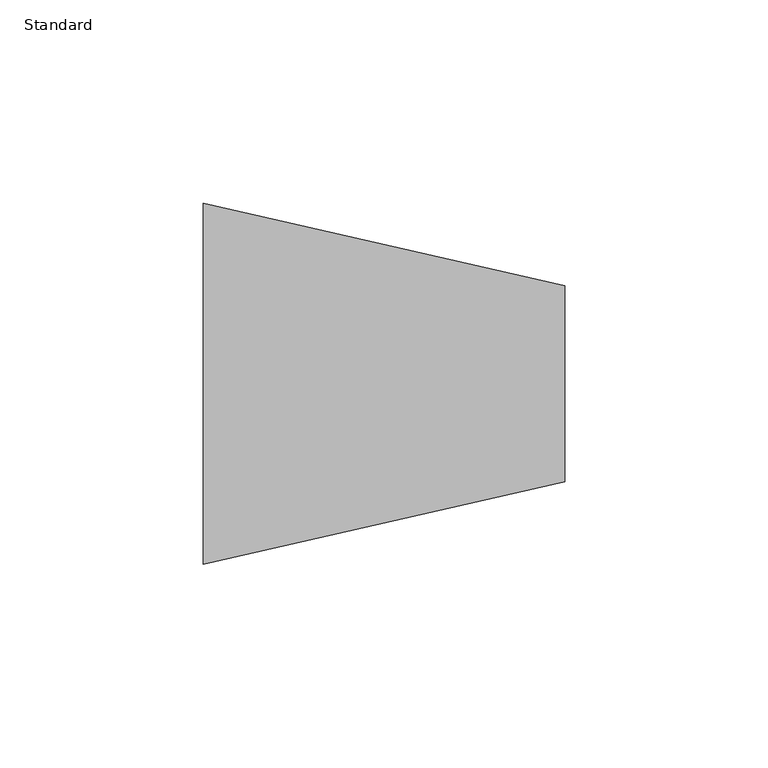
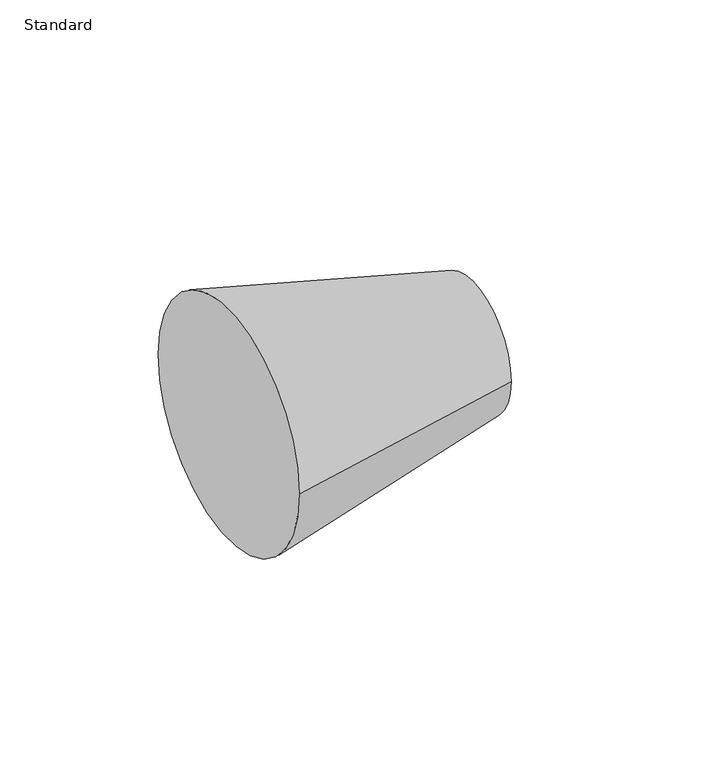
"""IFC4 building model written with IfcOpenShell, lengths in millimetres: pipe fitting geometry, Transformation - Générique : Standard."""

import ifcopenshell
import ifcopenshell.guid

model = None  # the IFC model being written
_history = None  # IfcOwnerHistory: only IFC2X3 demands one
_inside = {}  # id of a spatial element -> (the spatial element, [elements in it])
_under = {}  # id of a project, library or spatial element -> (it, [spatial elements below it])
_declared = {}  # id of a project -> (the project, [libraries it declares])
_typed = {}  # id of a type object -> (the type object, [elements of that type])
_made_of = {}  # id of a material, layer set ... -> (it, [elements and type objects made of it])


def new_model(schema):
    """Start an empty IFC model of exactly this schema.

    Asked for "IFC4X3", IfcOpenShell would pick the latest addendum, in which some entities
    have other attributes; the version numbers below select the first issue.
    IFC2X3 requires an IfcOwnerHistory on every rooted entity: one is made here for all.
    """
    global model, _history
    if schema == "IFC4X3":
        model = ifcopenshell.file(schema_version=(4, 3, 0, 0))
    else:
        model = ifcopenshell.file(schema=schema)
    _inside.clear()
    _under.clear()
    _declared.clear()
    _typed.clear()
    _made_of.clear()
    _history = None
    if model.schema == "IFC2X3":
        org = make("IfcOrganization", Name="unknown")
        user = make(
            "IfcPersonAndOrganization",
            ThePerson=make("IfcPerson", FamilyName="unknown"),
            TheOrganization=org,
        )
        app = make(
            "IfcApplication",
            ApplicationDeveloper=org,
            Version="unknown",
            ApplicationFullName="unknown",
            ApplicationIdentifier="unknown",
        )
        _history = make(
            "IfcOwnerHistory",
            OwningUser=user,
            OwningApplication=app,
            ChangeAction="ADDED",
            CreationDate=0,
        )
    return model


def make(cls, **values):
    """One entity of the class cls with the attributes given. An attribute that is None is left unset."""
    return model.create_entity(
        cls, **{name: value for name, value in values.items() if value is not None}
    )


def rooted(cls, **values):
    """An entity with a GlobalId (a new one), such as an element, a storey or a relation."""
    return make(cls, GlobalId=ifcopenshell.guid.new(), OwnerHistory=_history, **values)


def si_unit(unit_type, name, prefix=None):
    """IfcSIUnit, for example si_unit("LENGTHUNIT", "METRE", prefix="MILLI")."""
    return make("IfcSIUnit", UnitType=unit_type, Prefix=prefix, Name=name)


def assignment(units):
    """IfcUnitAssignment: the units of a project."""
    return None if units is None else make("IfcUnitAssignment", Units=units)


def point(xyz):
    """IfcCartesianPoint."""
    return None if xyz is None else make("IfcCartesianPoint", Coordinates=xyz)


def direction(xyz):
    """IfcDirection."""
    return None if xyz is None else make("IfcDirection", DirectionRatios=xyz)


def frame(location, z_axis=None, x_axis=None):
    """IfcAxis2Placement3D, a coordinate frame: its origin and axes. An axis left out is left unset."""
    return make(
        "IfcAxis2Placement3D",
        Location=point(location),
        Axis=direction(z_axis),
        RefDirection=direction(x_axis),
    )


def origin():
    """The frame at (0, 0, 0) with its axes left unset."""
    return frame((0.0, 0.0, 0.0))


def place(relative_to, where):
    """IfcLocalPlacement: puts the frame where relative to a parent placement (None: the world)."""
    return make(
        "IfcLocalPlacement", PlacementRelTo=relative_to, RelativePlacement=where
    )


def context(
    kind, dimensions, precision=None, world=None, true_north=None, identifier=None
):
    """IfcGeometricRepresentationContext, for example the 3D "Model" context."""
    return make(
        "IfcGeometricRepresentationContext",
        ContextIdentifier=identifier,
        ContextType=kind,
        CoordinateSpaceDimension=dimensions,
        Precision=precision,
        WorldCoordinateSystem=world,
        TrueNorth=true_north,
    )


def project(units=None, contexts=None):
    """IfcProject with its units and contexts."""
    return rooted(
        "IfcProject",
        Name="project",
        RepresentationContexts=contexts,
        UnitsInContext=assignment(units),
    )


def spatial(cls, under=None, at=None, **own):
    """A site, building, storey or space (cls), placed at a placement, below another one or the project."""
    s = rooted(cls, ObjectPlacement=at, **own)
    if under is not None:
        _under.setdefault(under.id(), (under, []))[1].append(s)
    return s


def polyline(points):
    """IfcPolyline through the points."""
    return make("IfcPolyline", Points=[point(p) for p in points])


def circle_curve(where, radius):
    """IfcCircle in the frame where."""
    return make("IfcCircle", Position=where, Radius=radius)


def shape(context_of_items, identifier, shape_type, items):
    """IfcShapeRepresentation: the items that make up one representation, for example the "Body"."""
    return make(
        "IfcShapeRepresentation",
        ContextOfItems=context_of_items,
        RepresentationIdentifier=identifier,
        RepresentationType=shape_type,
        Items=items,
    )


def source(mapping_origin, context_of_items, identifier, shape_type, items):
    """IfcRepresentationMap: a shape defined once, which mapped items show again and again."""
    return make(
        "IfcRepresentationMap",
        MappingOrigin=mapping_origin,
        MappedRepresentation=shape(context_of_items, identifier, shape_type, items),
    )


def transform(
    local_origin,
    x_axis=None,
    y_axis=None,
    z_axis=None,
    scale=None,
    scale2=None,
    scale3=None,
    uniform=True,
):
    """IfcCartesianTransformationOperator3D, or its non-uniform kind. x_axis, y_axis, z_axis: its Axis1, 2, 3."""
    if uniform:
        return make(
            "IfcCartesianTransformationOperator3D",
            Axis1=direction(x_axis),
            Axis2=direction(y_axis),
            LocalOrigin=point(local_origin),
            Scale=scale,
            Axis3=direction(z_axis),
        )
    return make(
        "IfcCartesianTransformationOperator3DnonUniform",
        Axis1=direction(x_axis),
        Axis2=direction(y_axis),
        LocalOrigin=point(local_origin),
        Scale=scale,
        Axis3=direction(z_axis),
        Scale2=scale2,
        Scale3=scale3,
    )


def mapped(mapping_source, mapping_target):
    """IfcMappedItem: shows the shape of a source again, moved by a transform."""
    return make(
        "IfcMappedItem", MappingSource=mapping_source, MappingTarget=mapping_target
    )


def made_of(thing, what):
    """Note that an element or type object is made of a material, layer set ...; save() writes the relation."""
    if what is not None:
        _made_of.setdefault(what.id(), (what, []))[1].append(thing)
    return thing


def element(
    cls,
    number,
    at=None,
    inside=None,
    cuts=None,
    type_object=None,
    material=None,
    context=None,
    identifier="Body",
    shape_type=None,
    held_by="IfcProductDefinitionShape",
    body=None,
    shapes=None,
    **own,
):
    """One element of the class cls, such as IfcWall. Its Tag is "e" and its number.

    at: its placement. inside: the storey or other place that contains it. cuts: it is an
    opening in that element (IfcRelVoidsElement). A single representation is given by context,
    identifier, shape_type and body (its items); several are given by shapes. held_by: the class
    of the entity that holds the representations. save() writes the other relations.
    """
    e = rooted(cls, Tag="e%d" % number, ObjectPlacement=at, **own)
    if body is not None:
        shapes = [shape(context, identifier, shape_type, body)]
    if shapes is not None:
        e.Representation = make(held_by, Representations=shapes)
    if inside is not None:
        _inside.setdefault(inside.id(), (inside, []))[1].append(e)
    if cuts is not None:
        rooted(
            "IfcRelVoidsElement", RelatingBuildingElement=cuts, RelatedOpeningElement=e
        )
    if type_object is not None:
        _typed.setdefault(type_object.id(), (type_object, []))[1].append(e)
    return made_of(e, material)


def aggregate(whole, parts):
    """IfcRelAggregates: a whole, such as a stair, and the parts it consists of."""
    return rooted("IfcRelAggregates", RelatingObject=whole, RelatedObjects=parts)


def save(model, path):
    """Write the relations noted so far, then the file.

    IfcRelAggregates (storeys below a building ...), IfcRelContainedInSpatialStructure (elements
    in a storey), IfcRelDefinesByType, IfcRelAssociatesMaterial and IfcRelDeclares: one each for
    every whole, place, type object, material and project.
    """
    for whole, parts in _under.values():
        aggregate(whole, parts)
    for where, things in _inside.values():
        rooted(
            "IfcRelContainedInSpatialStructure",
            RelatedElements=things,
            RelatingStructure=where,
        )
    for kind, things in _typed.values():
        rooted("IfcRelDefinesByType", RelatedObjects=things, RelatingType=kind)
    for what, things in _made_of.values():
        rooted("IfcRelAssociatesMaterial", RelatedObjects=things, RelatingMaterial=what)
    for by, libraries in _declared.values():
        rooted("IfcRelDeclares", RelatingContext=by, RelatedDefinitions=libraries)
    model.write(path)


def plane_surface(at):
    """IfcPlane: the flat surface through the origin of the frame at, square to its z axis."""
    return make("IfcPlane", Position=at)


def revolved_surface(curve, axis_point, axis_direction):
    """IfcSurfaceOfRevolution: the curve turned about the line through axis_point along axis_direction."""
    return make(
        "IfcSurfaceOfRevolution",
        SweptCurve=make("IfcArbitraryOpenProfileDef", ProfileType="CURVE", Curve=curve),
        AxisPosition=make("IfcAxis1Placement", Location=point(axis_point), Axis=direction(axis_direction)),
    )


def advanced_brep(points, edges, surfaces, faces):
    """IfcAdvancedBrep: a solid bounded by faces that lie on surfaces and meet in shared edges.

    An edge is (start, end): straight between two places in points (the first is 0);
    or (start, end, curve); or (start, end, curve, False) where it runs against its curve.
    A face is (place in surfaces, loops), or (place, loops, False) where it looks against
    its surface's normal. A loop lists edges by number (the first is 1), with a minus sign
    where the edge is run from its end to its start. The first loop is the outer one.
    """
    corners = [point(p) for p in points]
    vertices = [make("IfcVertexPoint", VertexGeometry=c) for c in corners]
    made = []
    for start, end, *more in edges:
        made.append(
            make(
                "IfcEdgeCurve",
                EdgeStart=vertices[start],
                EdgeEnd=vertices[end],
                EdgeGeometry=more[0] if more else make("IfcPolyline", Points=[corners[start], corners[end]]),
                SameSense=more[1] if len(more) > 1 else True,
            )
        )
    hull = []
    for where, loops, *sense in faces:
        bounds = []
        for j, loop in enumerate(loops):
            ring = [make("IfcOrientedEdge", EdgeElement=made[abs(k) - 1], Orientation=k > 0) for k in loop]
            bounds.append(
                make(
                    "IfcFaceOuterBound" if j == 0 else "IfcFaceBound",
                    Bound=make("IfcEdgeLoop", EdgeList=ring),
                    Orientation=True,
                )
            )
        hull.append(make("IfcAdvancedFace", Bounds=bounds, FaceSurface=surfaces[where], SameSense=sense[0] if sense else True))
    return make("IfcAdvancedBrep", Outer=make("IfcClosedShell", CfsFaces=hull))


def standard_2343b29d(model_context):
    return source(origin(), model_context, "Body", "AdvancedBrep", [
        advanced_brep(
        [(89.0, -24.15, 0.0), (89.0, 24.15, 0.0), (0.0, -44.45, 0.0), (0.0, 44.45, 0.0)],
        [
            (0, 1, circle_curve(frame((89.0, 0.0, 0.0), z_axis=(1.0, 0.0, 0.0), x_axis=(0.0, -1.0, 0.0)), 24.15)),
            (1, 0, circle_curve(frame((89.0, 0.0, 0.0), z_axis=(1.0, 0.0, 0.0), x_axis=(0.0, 1.0, 0.0)), 24.15)),
            (2, 3, circle_curve(frame((0.0, 0.0, 0.0), z_axis=(-1.0, 0.0, 0.0), x_axis=(0.0, 1.0, 0.0)), 44.45)),
            (3, 2, circle_curve(frame((0.0, 0.0, 0.0), z_axis=(-1.0, 0.0, 0.0), x_axis=(0.0, -1.0, 0.0)), 44.45)),
            (3, 1),
            (0, 2),
        ],
        [
            plane_surface(frame((89.0, 0.0, 0.0), z_axis=(1.0, 0.0, 0.0), x_axis=(0.0, 0.0, -1.0))),
            plane_surface(frame((0.0, 0.0, 0.0), z_axis=(-1.0, 0.0, 0.0), x_axis=(0.0, 0.0, -1.0))),
            revolved_surface(polyline([(89.0, -24.149999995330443, 0.0), (0.0, -44.45, 0.0)]), (194.8793103, 0.0, 0.0), (-1.0, 0.0, 0.0)),
            revolved_surface(polyline([(89.0, 24.149999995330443, 0.0), (0.0, 44.45, 0.0)]), (194.8793103, 0.0, 0.0), (-1.0, 0.0, 0.0)),
        ],
        [
            (0, [[1, 2]]),
            (1, [[3, 4]]),
            (2, [[-4, 5, -1, 6]]),
            (3, [[-3, -6, -2, -5]]),
        ],
    ),
    ])


if __name__ == "__main__":
    model = new_model("IFC4")
    model_context = context("Model", 3, world=origin())
    ifc_project = project(units=[si_unit("LENGTHUNIT", "METRE", prefix="MILLI")], contexts=[model_context])
    site = spatial("IfcSite", under=ifc_project)
    building = spatial("IfcBuilding", under=site)
    placement = place(None, origin())
    standard_shape = standard_2343b29d(model_context)
    element("IfcPipeFitting", 1, ObjectType="Transformation - Générique : Standard", at=placement, inside=building, context=model_context, shape_type="MappedRepresentation", body=[
        mapped(standard_shape, transform((0.0, 0.0, 0.0), x_axis=(1.0, 0.0, 0.0), y_axis=(0.0, 1.0, 0.0), z_axis=(0.0, 0.0, 1.0))),
    ])
    save(model, "model.ifc")
